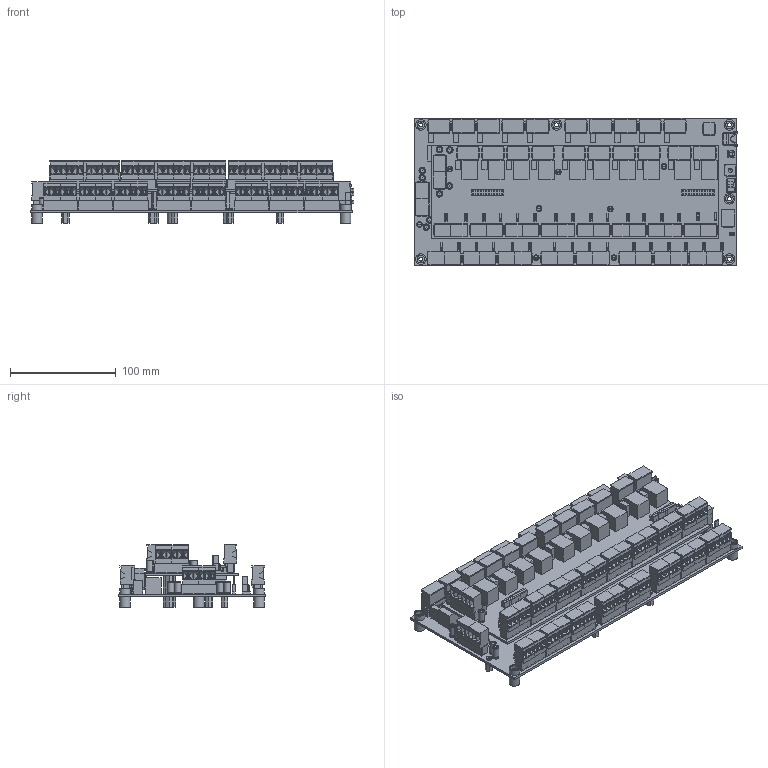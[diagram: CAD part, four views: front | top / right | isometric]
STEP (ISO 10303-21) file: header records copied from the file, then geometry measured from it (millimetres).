
FILE_DESCRIPTION(/* description */ (''),/* implementation_level */ '2;1');
FILE_NAME(/* name */ 'R:\Temp\J. Narvaez\IAN DRAWINGS\001 - Controls\001 - Magnum Controllers\010 - MCS-IO-BASE-EXT\MCS-IO-BASE-EXT-3D.stp',/* time_stamp */ '2022-11-08T09:01:54-05:00',/* author */ ('mjeter'),/* organization */ ('unknown'),/* preprocessor_version */ 'ST-DEVELOPER v19',/* originating_system */ 'Autodesk Inventor 2023',/* authorisation */ '');
FILE_SCHEMA (('AUTOMOTIVE_DESIGN { 1 0 10303 214 3 1 1 }'));
Products named in the file (1): MCS-IO-BASE-EXT-3D
Bounding box: 306.39 x 139.67 x 59.3 mm (x, y, z)
Volume: 536410.1 mm3; surface area: 411115.9 mm2
Topology: 311 solids, 314 shells, 9404 faces, 24243 edges, 15862 vertices
Faces by surface type: plane 8609, cylinder 569, cone 174, torus 48, sphere 4
Full cylindrical faces by diameter (mm): 1.143 x4, 2.032 x13, 3.378 x2, 3.658 x13, 3.81 x9, 5.359 x8, 5.944 x6, 6.096 x6, 6.134 x16, 7.239 x12, 10.033 x12
Entity records: 280292 total; most frequent: CARTESIAN_POINT 52100, ORIENTED_EDGE 48472, DIRECTION 43515, EDGE_CURVE 24239, LINE 21851, VECTOR 21851, VERTEX_POINT 15862, AXIS2_PLACEMENT_3D 10832
